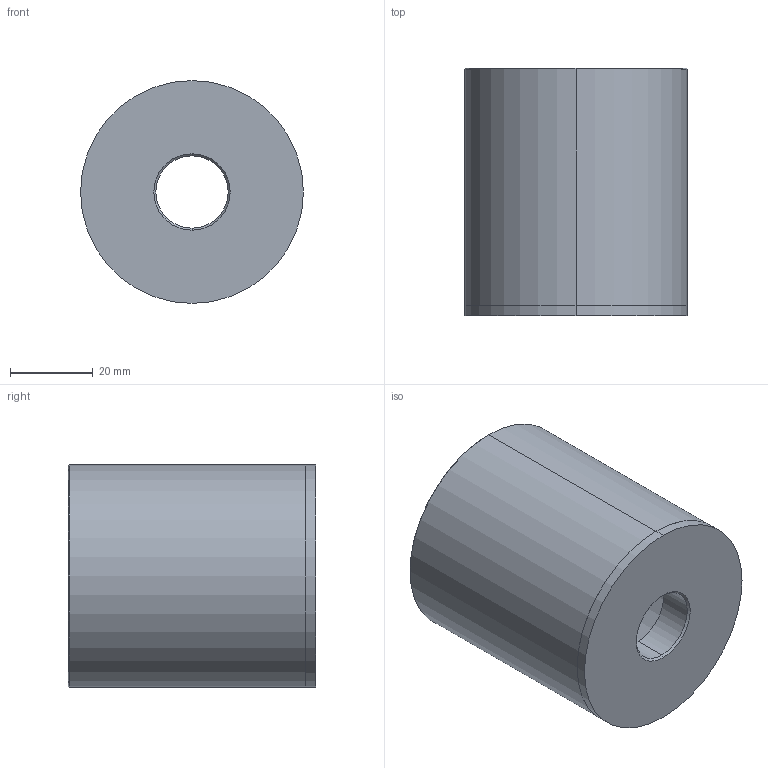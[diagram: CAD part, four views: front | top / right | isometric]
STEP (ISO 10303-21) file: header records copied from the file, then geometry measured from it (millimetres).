
FILE_DESCRIPTION (( 'STEP AP214' ), '1' );
FILE_NAME ('R05_54x060.STEP', '2020-03-20T00:02:33', ( '' ), ( '' ), 'SwSTEP 2.0', 'SolidWorks 2014', '' );
FILE_SCHEMA (( 'AUTOMOTIVE_DESIGN' ));
Length unit declared in the file: millimetre
Products named in the file (1): R05_54x060
Bounding box: 54.02 x 60 x 54.02 mm (x, y, z)
Volume: 65826 mm3; surface area: 20836.5 mm2
Topology: 1 solids, 1 shells, 19 faces, 38 edges, 22 vertices
Faces by surface type: cone 8, cylinder 8, plane 3
Entity records: 554 total; most frequent: DIRECTION 100, CARTESIAN_POINT 80, ORIENTED_EDGE 76, AXIS2_PLACEMENT_3D 42, EDGE_CURVE 38, CIRCLE 22, VERTEX_POINT 22, EDGE_LOOP 22
